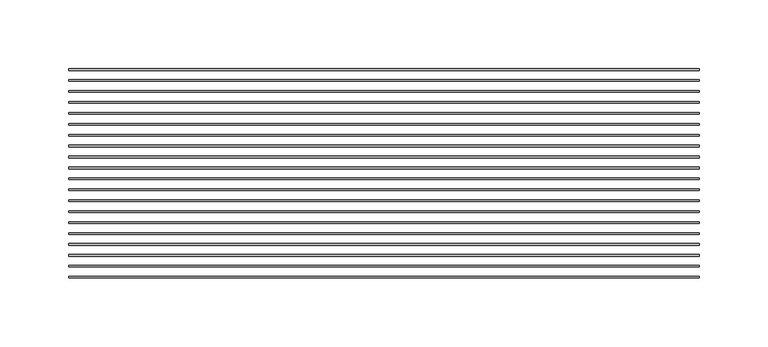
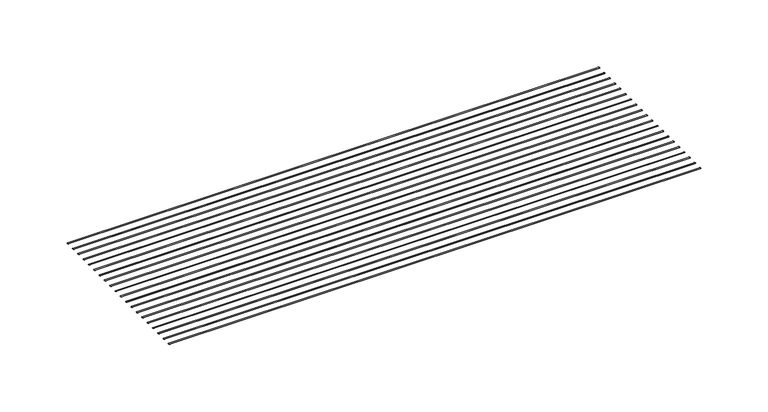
"""IFC4 building model written with IfcOpenShell, lengths in millimetres: proxy geometry, CRAi Generic Model Mesh Piece Face Based : Wider Mesh."""

from ifc_helpers import new_model, si_unit, point, frame, origin, place, context, project, spatial, ellipse_curve, trimmed, source, transform, mapped, element, save
from ifc_brep_helpers import plane_surface, extruded_surface, advanced_brep


def generic_models_e2e28054(model_context):
    return source(origin(), model_context, "Body", "AdvancedBrep", [
        advanced_brep(
        [(-228.6, -14.4859375, -2.9765625), (-228.6, -15.6765625, -2.9765625), (228.6, -14.4859375, -2.9765625), (228.6, -15.6765625, -2.9765625)],
        [
            (0, 1, ellipse_curve(frame((-228.6, -15.08125, -2.9765625), z_axis=(-1.0, 0.0, 0.0), x_axis=(0.0, -1.0, 0.0)), 0.5953125, 0.1984375)),
            (1, 0, ellipse_curve(frame((-228.6, -15.08125, -2.9765625), z_axis=(-1.0, 0.0, 0.0), x_axis=(0.0, -1.0, 0.0)), 0.5953125, 0.1984375)),
            (2, 3, ellipse_curve(frame((228.6, -15.08125, -2.9765625), z_axis=(1.0, 0.0, 0.0), x_axis=(0.0, -1.0, 0.0)), 0.5953125, 0.1984375)),
            (3, 2, ellipse_curve(frame((228.6, -15.08125, -2.9765625), z_axis=(1.0, 0.0, 0.0), x_axis=(0.0, -1.0, 0.0)), 0.5953125, 0.1984375)),
            (0, 2),
            (3, 1),
        ],
        [
            plane_surface(frame((-228.6, -15.08125, -2.9765625), z_axis=(-1.0, 0.0, 0.0), x_axis=(0.0, 0.0, 1.0))),
            plane_surface(frame((228.6, -15.08125, -2.9765625), z_axis=(1.0, 0.0, 0.0), x_axis=(0.0, 0.0, 1.0))),
            extruded_surface(trimmed(ellipse_curve(frame((228.6, -15.08125, -2.9765625), z_axis=(-1.0, 0.0, 0.0), x_axis=(0.0, -1.0, 0.0)), 0.5953125, 0.1984375), [point((228.6, -14.4859375, -2.9765625))], [point((228.6, -15.6765625, -2.9765625))], True, "CARTESIAN"), (-457.2, 0.0, 0.0), 457.2),
            extruded_surface(trimmed(ellipse_curve(frame((228.6, -15.08125, -2.9765625), z_axis=(-1.0, 0.0, 0.0), x_axis=(0.0, -1.0, 0.0)), 0.5953125, 0.1984375), [point((228.6, -15.6765625, -2.9765625))], [point((228.6, -14.4859375, -2.9765625))], True, "CARTESIAN"), (-457.2, 0.0, 0.0), 457.2),
        ],
        [
            (0, [[1, 2]]),
            (1, [[3, 4]]),
            (2, [[-1, 5, -4, 6]]),
            (3, [[-2, -6, -3, -5]]),
        ],
    ),
        advanced_brep(
        [(-228.6, -22.4234375, -2.9765625), (-228.6, -23.6140625, -2.9765625), (228.6, -22.4234375, -2.9765625), (228.6, -23.6140625, -2.9765625)],
        [
            (0, 1, ellipse_curve(frame((-228.6, -23.01875, -2.9765625), z_axis=(-1.0, 0.0, 0.0), x_axis=(0.0, -1.0, 0.0)), 0.5953125, 0.1984375)),
            (1, 0, ellipse_curve(frame((-228.6, -23.01875, -2.9765625), z_axis=(-1.0, 0.0, 0.0), x_axis=(0.0, -1.0, 0.0)), 0.5953125, 0.1984375)),
            (2, 3, ellipse_curve(frame((228.6, -23.01875, -2.9765625), z_axis=(1.0, 0.0, 0.0), x_axis=(0.0, -1.0, 0.0)), 0.5953125, 0.1984375)),
            (3, 2, ellipse_curve(frame((228.6, -23.01875, -2.9765625), z_axis=(1.0, 0.0, 0.0), x_axis=(0.0, -1.0, 0.0)), 0.5953125, 0.1984375)),
            (0, 2),
            (3, 1),
        ],
        [
            plane_surface(frame((-228.6, -23.01875, -2.9765625), z_axis=(-1.0, 0.0, 0.0), x_axis=(0.0, 0.0, 1.0))),
            plane_surface(frame((228.6, -23.01875, -2.9765625), z_axis=(1.0, 0.0, 0.0), x_axis=(0.0, 0.0, 1.0))),
            extruded_surface(trimmed(ellipse_curve(frame((228.6, -23.01875, -2.9765625), z_axis=(-1.0, 0.0, 0.0), x_axis=(0.0, -1.0, 0.0)), 0.5953125, 0.1984375), [point((228.6, -22.4234375, -2.9765625))], [point((228.6, -23.6140625, -2.9765625))], True, "CARTESIAN"), (-457.2, 0.0, 0.0), 457.2),
            extruded_surface(trimmed(ellipse_curve(frame((228.6, -23.01875, -2.9765625), z_axis=(-1.0, 0.0, 0.0), x_axis=(0.0, -1.0, 0.0)), 0.5953125, 0.1984375), [point((228.6, -23.6140625, -2.9765625))], [point((228.6, -22.4234375, -2.9765625))], True, "CARTESIAN"), (-457.2, 0.0, 0.0), 457.2),
        ],
        [
            (0, [[1, 2]]),
            (1, [[3, 4]]),
            (2, [[-1, 5, -4, 6]]),
            (3, [[-2, -6, -3, -5]]),
        ],
    ),
        advanced_brep(
        [(-228.6, -30.3609375, -2.9765625), (-228.6, -31.5515625, -2.9765625), (228.6, -30.3609375, -2.9765625), (228.6, -31.5515625, -2.9765625)],
        [
            (0, 1, ellipse_curve(frame((-228.6, -30.95625, -2.9765625), z_axis=(-1.0, 0.0, 0.0), x_axis=(0.0, -1.0, 0.0)), 0.5953125, 0.1984375)),
            (1, 0, ellipse_curve(frame((-228.6, -30.95625, -2.9765625), z_axis=(-1.0, 0.0, 0.0), x_axis=(0.0, -1.0, 0.0)), 0.5953125, 0.1984375)),
            (2, 3, ellipse_curve(frame((228.6, -30.95625, -2.9765625), z_axis=(1.0, 0.0, 0.0), x_axis=(0.0, -1.0, 0.0)), 0.5953125, 0.1984375)),
            (3, 2, ellipse_curve(frame((228.6, -30.95625, -2.9765625), z_axis=(1.0, 0.0, 0.0), x_axis=(0.0, -1.0, 0.0)), 0.5953125, 0.1984375)),
            (0, 2),
            (3, 1),
        ],
        [
            plane_surface(frame((-228.6, -30.95625, -2.9765625), z_axis=(-1.0, 0.0, 0.0), x_axis=(0.0, 0.0, 1.0))),
            plane_surface(frame((228.6, -30.95625, -2.9765625), z_axis=(1.0, 0.0, 0.0), x_axis=(0.0, 0.0, 1.0))),
            extruded_surface(trimmed(ellipse_curve(frame((228.6, -30.95625, -2.9765625), z_axis=(-1.0, 0.0, 0.0), x_axis=(0.0, -1.0, 0.0)), 0.5953125, 0.1984375), [point((228.6, -30.3609375, -2.9765625))], [point((228.6, -31.5515625, -2.9765625))], True, "CARTESIAN"), (-457.2, 0.0, 0.0), 457.2),
            extruded_surface(trimmed(ellipse_curve(frame((228.6, -30.95625, -2.9765625), z_axis=(-1.0, 0.0, 0.0), x_axis=(0.0, -1.0, 0.0)), 0.5953125, 0.1984375), [point((228.6, -31.5515625, -2.9765625))], [point((228.6, -30.3609375, -2.9765625))], True, "CARTESIAN"), (-457.2, 0.0, 0.0), 457.2),
        ],
        [
            (0, [[1, 2]]),
            (1, [[3, 4]]),
            (2, [[-1, 5, -4, 6]]),
            (3, [[-2, -6, -3, -5]]),
        ],
    ),
        advanced_brep(
        [(-228.6, -38.2984375, -2.9765625), (-228.6, -39.4890625, -2.9765625), (228.6, -38.2984375, -2.9765625), (228.6, -39.4890625, -2.9765625)],
        [
            (0, 1, ellipse_curve(frame((-228.6, -38.89375, -2.9765625), z_axis=(-1.0, 0.0, 0.0), x_axis=(0.0, -1.0, 0.0)), 0.5953125, 0.1984375)),
            (1, 0, ellipse_curve(frame((-228.6, -38.89375, -2.9765625), z_axis=(-1.0, 0.0, 0.0), x_axis=(0.0, -1.0, 0.0)), 0.5953125, 0.1984375)),
            (2, 3, ellipse_curve(frame((228.6, -38.89375, -2.9765625), z_axis=(1.0, 0.0, 0.0), x_axis=(0.0, -1.0, 0.0)), 0.5953125, 0.1984375)),
            (3, 2, ellipse_curve(frame((228.6, -38.89375, -2.9765625), z_axis=(1.0, 0.0, 0.0), x_axis=(0.0, -1.0, 0.0)), 0.5953125, 0.1984375)),
            (0, 2),
            (3, 1),
        ],
        [
            plane_surface(frame((-228.6, -38.89375, -2.9765625), z_axis=(-1.0, 0.0, 0.0), x_axis=(0.0, 0.0, 1.0))),
            plane_surface(frame((228.6, -38.89375, -2.9765625), z_axis=(1.0, 0.0, 0.0), x_axis=(0.0, 0.0, 1.0))),
            extruded_surface(trimmed(ellipse_curve(frame((228.6, -38.89375, -2.9765625), z_axis=(-1.0, 0.0, 0.0), x_axis=(0.0, -1.0, 0.0)), 0.5953125, 0.1984375), [point((228.6, -38.2984375, -2.9765625))], [point((228.6, -39.4890625, -2.9765625))], True, "CARTESIAN"), (-457.2, 0.0, 0.0), 457.2),
            extruded_surface(trimmed(ellipse_curve(frame((228.6, -38.89375, -2.9765625), z_axis=(-1.0, 0.0, 0.0), x_axis=(0.0, -1.0, 0.0)), 0.5953125, 0.1984375), [point((228.6, -39.4890625, -2.9765625))], [point((228.6, -38.2984375, -2.9765625))], True, "CARTESIAN"), (-457.2, 0.0, 0.0), 457.2),
        ],
        [
            (0, [[1, 2]]),
            (1, [[3, 4]]),
            (2, [[-1, 5, -4, 6]]),
            (3, [[-2, -6, -3, -5]]),
        ],
    ),
        advanced_brep(
        [(-228.6, -46.2359375, -2.9765625), (-228.6, -47.4265625, -2.9765625), (228.6, -46.2359375, -2.9765625), (228.6, -47.4265625, -2.9765625)],
        [
            (0, 1, ellipse_curve(frame((-228.6, -46.83125, -2.9765625), z_axis=(-1.0, 0.0, 0.0), x_axis=(0.0, -1.0, 0.0)), 0.5953125, 0.1984375)),
            (1, 0, ellipse_curve(frame((-228.6, -46.83125, -2.9765625), z_axis=(-1.0, 0.0, 0.0), x_axis=(0.0, -1.0, 0.0)), 0.5953125, 0.1984375)),
            (2, 3, ellipse_curve(frame((228.6, -46.83125, -2.9765625), z_axis=(1.0, 0.0, 0.0), x_axis=(0.0, -1.0, 0.0)), 0.5953125, 0.1984375)),
            (3, 2, ellipse_curve(frame((228.6, -46.83125, -2.9765625), z_axis=(1.0, 0.0, 0.0), x_axis=(0.0, -1.0, 0.0)), 0.5953125, 0.1984375)),
            (0, 2),
            (3, 1),
        ],
        [
            plane_surface(frame((-228.6, -46.83125, -2.9765625), z_axis=(-1.0, 0.0, 0.0), x_axis=(0.0, 0.0, 1.0))),
            plane_surface(frame((228.6, -46.83125, -2.9765625), z_axis=(1.0, 0.0, 0.0), x_axis=(0.0, 0.0, 1.0))),
            extruded_surface(trimmed(ellipse_curve(frame((228.6, -46.83125, -2.9765625), z_axis=(-1.0, 0.0, 0.0), x_axis=(0.0, -1.0, 0.0)), 0.5953125, 0.1984375), [point((228.6, -46.2359375, -2.9765625))], [point((228.6, -47.4265625, -2.9765625))], True, "CARTESIAN"), (-457.2, 0.0, 0.0), 457.2),
            extruded_surface(trimmed(ellipse_curve(frame((228.6, -46.83125, -2.9765625), z_axis=(-1.0, 0.0, 0.0), x_axis=(0.0, -1.0, 0.0)), 0.5953125, 0.1984375), [point((228.6, -47.4265625, -2.9765625))], [point((228.6, -46.2359375, -2.9765625))], True, "CARTESIAN"), (-457.2, 0.0, 0.0), 457.2),
        ],
        [
            (0, [[1, 2]]),
            (1, [[3, 4]]),
            (2, [[-1, 5, -4, 6]]),
            (3, [[-2, -6, -3, -5]]),
        ],
    ),
        advanced_brep(
        [(-228.6, -54.1734375, -2.9765625), (-228.6, -55.3640625, -2.9765625), (228.6, -54.1734375, -2.9765625), (228.6, -55.3640625, -2.9765625)],
        [
            (0, 1, ellipse_curve(frame((-228.6, -54.76875, -2.9765625), z_axis=(-1.0, 0.0, 0.0), x_axis=(0.0, -1.0, 0.0)), 0.5953125, 0.1984375)),
            (1, 0, ellipse_curve(frame((-228.6, -54.76875, -2.9765625), z_axis=(-1.0, 0.0, 0.0), x_axis=(0.0, -1.0, 0.0)), 0.5953125, 0.1984375)),
            (2, 3, ellipse_curve(frame((228.6, -54.76875, -2.9765625), z_axis=(1.0, 0.0, 0.0), x_axis=(0.0, -1.0, 0.0)), 0.5953125, 0.1984375)),
            (3, 2, ellipse_curve(frame((228.6, -54.76875, -2.9765625), z_axis=(1.0, 0.0, 0.0), x_axis=(0.0, -1.0, 0.0)), 0.5953125, 0.1984375)),
            (0, 2),
            (3, 1),
        ],
        [
            plane_surface(frame((-228.6, -54.76875, -2.9765625), z_axis=(-1.0, 0.0, 0.0), x_axis=(0.0, 0.0, 1.0))),
            plane_surface(frame((228.6, -54.76875, -2.9765625), z_axis=(1.0, 0.0, 0.0), x_axis=(0.0, 0.0, 1.0))),
            extruded_surface(trimmed(ellipse_curve(frame((228.6, -54.76875, -2.9765625), z_axis=(-1.0, 0.0, 0.0), x_axis=(0.0, -1.0, 0.0)), 0.5953125, 0.1984375), [point((228.6, -54.1734375, -2.9765625))], [point((228.6, -55.3640625, -2.9765625))], True, "CARTESIAN"), (-457.2, 0.0, 0.0), 457.2),
            extruded_surface(trimmed(ellipse_curve(frame((228.6, -54.76875, -2.9765625), z_axis=(-1.0, 0.0, 0.0), x_axis=(0.0, -1.0, 0.0)), 0.5953125, 0.1984375), [point((228.6, -55.3640625, -2.9765625))], [point((228.6, -54.1734375, -2.9765625))], True, "CARTESIAN"), (-457.2, 0.0, 0.0), 457.2),
        ],
        [
            (0, [[1, 2]]),
            (1, [[3, 4]]),
            (2, [[-1, 5, -4, 6]]),
            (3, [[-2, -6, -3, -5]]),
        ],
    ),
        advanced_brep(
        [(-228.6, -62.1109375, -2.9765625), (-228.6, -63.3015625, -2.9765625), (228.6, -62.1109375, -2.9765625), (228.6, -63.3015625, -2.9765625)],
        [
            (0, 1, ellipse_curve(frame((-228.6, -62.70625, -2.9765625), z_axis=(-1.0, 0.0, 0.0), x_axis=(0.0, -1.0, 0.0)), 0.5953125, 0.1984375)),
            (1, 0, ellipse_curve(frame((-228.6, -62.70625, -2.9765625), z_axis=(-1.0, 0.0, 0.0), x_axis=(0.0, -1.0, 0.0)), 0.5953125, 0.1984375)),
            (2, 3, ellipse_curve(frame((228.6, -62.70625, -2.9765625), z_axis=(1.0, 0.0, 0.0), x_axis=(0.0, -1.0, 0.0)), 0.5953125, 0.1984375)),
            (3, 2, ellipse_curve(frame((228.6, -62.70625, -2.9765625), z_axis=(1.0, 0.0, 0.0), x_axis=(0.0, -1.0, 0.0)), 0.5953125, 0.1984375)),
            (0, 2),
            (3, 1),
        ],
        [
            plane_surface(frame((-228.6, -62.70625, -2.9765625), z_axis=(-1.0, 0.0, 0.0), x_axis=(0.0, 0.0, 1.0))),
            plane_surface(frame((228.6, -62.70625, -2.9765625), z_axis=(1.0, 0.0, 0.0), x_axis=(0.0, 0.0, 1.0))),
            extruded_surface(trimmed(ellipse_curve(frame((228.6, -62.70625, -2.9765625), z_axis=(-1.0, 0.0, 0.0), x_axis=(0.0, -1.0, 0.0)), 0.5953125, 0.1984375), [point((228.6, -62.1109375, -2.9765625))], [point((228.6, -63.3015625, -2.9765625))], True, "CARTESIAN"), (-457.2, 0.0, 0.0), 457.2),
            extruded_surface(trimmed(ellipse_curve(frame((228.6, -62.70625, -2.9765625), z_axis=(-1.0, 0.0, 0.0), x_axis=(0.0, -1.0, 0.0)), 0.5953125, 0.1984375), [point((228.6, -63.3015625, -2.9765625))], [point((228.6, -62.1109375, -2.9765625))], True, "CARTESIAN"), (-457.2, 0.0, 0.0), 457.2),
        ],
        [
            (0, [[1, 2]]),
            (1, [[3, 4]]),
            (2, [[-1, 5, -4, 6]]),
            (3, [[-2, -6, -3, -5]]),
        ],
    ),
        advanced_brep(
        [(-228.6, -70.0484375, -2.9765625), (-228.6, -71.2390625, -2.9765625), (228.6, -70.0484375, -2.9765625), (228.6, -71.2390625, -2.9765625)],
        [
            (0, 1, ellipse_curve(frame((-228.6, -70.64375, -2.9765625), z_axis=(-1.0, 0.0, 0.0), x_axis=(0.0, -1.0, 0.0)), 0.5953125, 0.1984375)),
            (1, 0, ellipse_curve(frame((-228.6, -70.64375, -2.9765625), z_axis=(-1.0, 0.0, 0.0), x_axis=(0.0, -1.0, 0.0)), 0.5953125, 0.1984375)),
            (2, 3, ellipse_curve(frame((228.6, -70.64375, -2.9765625), z_axis=(1.0, 0.0, 0.0), x_axis=(0.0, -1.0, 0.0)), 0.5953125, 0.1984375)),
            (3, 2, ellipse_curve(frame((228.6, -70.64375, -2.9765625), z_axis=(1.0, 0.0, 0.0), x_axis=(0.0, -1.0, 0.0)), 0.5953125, 0.1984375)),
            (0, 2),
            (3, 1),
        ],
        [
            plane_surface(frame((-228.6, -70.64375, -2.9765625), z_axis=(-1.0, 0.0, 0.0), x_axis=(0.0, 0.0, 1.0))),
            plane_surface(frame((228.6, -70.64375, -2.9765625), z_axis=(1.0, 0.0, 0.0), x_axis=(0.0, 0.0, 1.0))),
            extruded_surface(trimmed(ellipse_curve(frame((228.6, -70.64375, -2.9765625), z_axis=(-1.0, 0.0, 0.0), x_axis=(0.0, -1.0, 0.0)), 0.5953125, 0.1984375), [point((228.6, -70.0484375, -2.9765625))], [point((228.6, -71.2390625, -2.9765625))], True, "CARTESIAN"), (-457.2, 0.0, 0.0), 457.2),
            extruded_surface(trimmed(ellipse_curve(frame((228.6, -70.64375, -2.9765625), z_axis=(-1.0, 0.0, 0.0), x_axis=(0.0, -1.0, 0.0)), 0.5953125, 0.1984375), [point((228.6, -71.2390625, -2.9765625))], [point((228.6, -70.0484375, -2.9765625))], True, "CARTESIAN"), (-457.2, 0.0, 0.0), 457.2),
        ],
        [
            (0, [[1, 2]]),
            (1, [[3, 4]]),
            (2, [[-1, 5, -4, 6]]),
            (3, [[-2, -6, -3, -5]]),
        ],
    ),
        advanced_brep(
        [(-228.6, -77.9859375, -2.9765625), (-228.6, -79.1765625, -2.9765625), (228.6, -77.9859375, -2.9765625), (228.6, -79.1765625, -2.9765625)],
        [
            (0, 1, ellipse_curve(frame((-228.6, -78.58125, -2.9765625), z_axis=(-1.0, 0.0, 0.0), x_axis=(0.0, -1.0, 0.0)), 0.5953125, 0.1984375)),
            (1, 0, ellipse_curve(frame((-228.6, -78.58125, -2.9765625), z_axis=(-1.0, 0.0, 0.0), x_axis=(0.0, -1.0, 0.0)), 0.5953125, 0.1984375)),
            (2, 3, ellipse_curve(frame((228.6, -78.58125, -2.9765625), z_axis=(1.0, 0.0, 0.0), x_axis=(0.0, -1.0, 0.0)), 0.5953125, 0.1984375)),
            (3, 2, ellipse_curve(frame((228.6, -78.58125, -2.9765625), z_axis=(1.0, 0.0, 0.0), x_axis=(0.0, -1.0, 0.0)), 0.5953125, 0.1984375)),
            (0, 2),
            (3, 1),
        ],
        [
            plane_surface(frame((-228.6, -78.58125, -2.9765625), z_axis=(-1.0, 0.0, 0.0), x_axis=(0.0, 0.0, 1.0))),
            plane_surface(frame((228.6, -78.58125, -2.9765625), z_axis=(1.0, 0.0, 0.0), x_axis=(0.0, 0.0, 1.0))),
            extruded_surface(trimmed(ellipse_curve(frame((228.6, -78.58125, -2.9765625), z_axis=(-1.0, 0.0, 0.0), x_axis=(0.0, -1.0, 0.0)), 0.5953125, 0.1984375), [point((228.6, -77.9859375, -2.9765625))], [point((228.6, -79.1765625, -2.9765625))], True, "CARTESIAN"), (-457.2, 0.0, 0.0), 457.2),
            extruded_surface(trimmed(ellipse_curve(frame((228.6, -78.58125, -2.9765625), z_axis=(-1.0, 0.0, 0.0), x_axis=(0.0, -1.0, 0.0)), 0.5953125, 0.1984375), [point((228.6, -79.1765625, -2.9765625))], [point((228.6, -77.9859375, -2.9765625))], True, "CARTESIAN"), (-457.2, 0.0, 0.0), 457.2),
        ],
        [
            (0, [[1, 2]]),
            (1, [[3, 4]]),
            (2, [[-1, 5, -4, 6]]),
            (3, [[-2, -6, -3, -5]]),
        ],
    ),
        advanced_brep(
        [(-228.6, -85.9234375, -2.9765625), (-228.6, -87.1140625, -2.9765625), (228.6, -85.9234375, -2.9765625), (228.6, -87.1140625, -2.9765625)],
        [
            (0, 1, ellipse_curve(frame((-228.6, -86.51875, -2.9765625), z_axis=(-1.0, 0.0, 0.0), x_axis=(0.0, -1.0, 0.0)), 0.5953125, 0.1984375)),
            (1, 0, ellipse_curve(frame((-228.6, -86.51875, -2.9765625), z_axis=(-1.0, 0.0, 0.0), x_axis=(0.0, -1.0, 0.0)), 0.5953125, 0.1984375)),
            (2, 3, ellipse_curve(frame((228.6, -86.51875, -2.9765625), z_axis=(1.0, 0.0, 0.0), x_axis=(0.0, -1.0, 0.0)), 0.5953125, 0.1984375)),
            (3, 2, ellipse_curve(frame((228.6, -86.51875, -2.9765625), z_axis=(1.0, 0.0, 0.0), x_axis=(0.0, -1.0, 0.0)), 0.5953125, 0.1984375)),
            (0, 2),
            (3, 1),
        ],
        [
            plane_surface(frame((-228.6, -86.51875, -2.9765625), z_axis=(-1.0, 0.0, 0.0), x_axis=(0.0, 0.0, 1.0))),
            plane_surface(frame((228.6, -86.51875, -2.9765625), z_axis=(1.0, 0.0, 0.0), x_axis=(0.0, 0.0, 1.0))),
            extruded_surface(trimmed(ellipse_curve(frame((228.6, -86.51875, -2.9765625), z_axis=(-1.0, 0.0, 0.0), x_axis=(0.0, -1.0, 0.0)), 0.5953125, 0.1984375), [point((228.6, -85.9234375, -2.9765625))], [point((228.6, -87.1140625, -2.9765625))], True, "CARTESIAN"), (-457.2, 0.0, 0.0), 457.2),
            extruded_surface(trimmed(ellipse_curve(frame((228.6, -86.51875, -2.9765625), z_axis=(-1.0, 0.0, 0.0), x_axis=(0.0, -1.0, 0.0)), 0.5953125, 0.1984375), [point((228.6, -87.1140625, -2.9765625))], [point((228.6, -85.9234375, -2.9765625))], True, "CARTESIAN"), (-457.2, 0.0, 0.0), 457.2),
        ],
        [
            (0, [[1, 2]]),
            (1, [[3, 4]]),
            (2, [[-1, 5, -4, 6]]),
            (3, [[-2, -6, -3, -5]]),
        ],
    ),
        advanced_brep(
        [(-228.6, -93.8609375, -2.9765625), (-228.6, -95.0515625, -2.9765625), (228.6, -93.8609375, -2.9765625), (228.6, -95.0515625, -2.9765625)],
        [
            (0, 1, ellipse_curve(frame((-228.6, -94.45625, -2.9765625), z_axis=(-1.0, 0.0, 0.0), x_axis=(0.0, -1.0, 0.0)), 0.5953125, 0.1984375)),
            (1, 0, ellipse_curve(frame((-228.6, -94.45625, -2.9765625), z_axis=(-1.0, 0.0, 0.0), x_axis=(0.0, -1.0, 0.0)), 0.5953125, 0.1984375)),
            (2, 3, ellipse_curve(frame((228.6, -94.45625, -2.9765625), z_axis=(1.0, 0.0, 0.0), x_axis=(0.0, -1.0, 0.0)), 0.5953125, 0.1984375)),
            (3, 2, ellipse_curve(frame((228.6, -94.45625, -2.9765625), z_axis=(1.0, 0.0, 0.0), x_axis=(0.0, -1.0, 0.0)), 0.5953125, 0.1984375)),
            (0, 2),
            (3, 1),
        ],
        [
            plane_surface(frame((-228.6, -94.45625, -2.9765625), z_axis=(-1.0, 0.0, 0.0), x_axis=(0.0, 0.0, 1.0))),
            plane_surface(frame((228.6, -94.45625, -2.9765625), z_axis=(1.0, 0.0, 0.0), x_axis=(0.0, 0.0, 1.0))),
            extruded_surface(trimmed(ellipse_curve(frame((228.6, -94.45625, -2.9765625), z_axis=(-1.0, 0.0, 0.0), x_axis=(0.0, -1.0, 0.0)), 0.5953125, 0.1984375), [point((228.6, -93.8609375, -2.9765625))], [point((228.6, -95.0515625, -2.9765625))], True, "CARTESIAN"), (-457.2, 0.0, 0.0), 457.2),
            extruded_surface(trimmed(ellipse_curve(frame((228.6, -94.45625, -2.9765625), z_axis=(-1.0, 0.0, 0.0), x_axis=(0.0, -1.0, 0.0)), 0.5953125, 0.1984375), [point((228.6, -95.0515625, -2.9765625))], [point((228.6, -93.8609375, -2.9765625))], True, "CARTESIAN"), (-457.2, 0.0, 0.0), 457.2),
        ],
        [
            (0, [[1, 2]]),
            (1, [[3, 4]]),
            (2, [[-1, 5, -4, 6]]),
            (3, [[-2, -6, -3, -5]]),
        ],
    ),
        advanced_brep(
        [(-228.6, -101.7984375, -2.9765625), (-228.6, -102.9890625, -2.9765625), (228.6, -101.7984375, -2.9765625), (228.6, -102.9890625, -2.9765625)],
        [
            (0, 1, ellipse_curve(frame((-228.6, -102.39375, -2.9765625), z_axis=(-1.0, 0.0, 0.0), x_axis=(0.0, -1.0, 0.0)), 0.5953125, 0.1984375)),
            (1, 0, ellipse_curve(frame((-228.6, -102.39375, -2.9765625), z_axis=(-1.0, 0.0, 0.0), x_axis=(0.0, -1.0, 0.0)), 0.5953125, 0.1984375)),
            (2, 3, ellipse_curve(frame((228.6, -102.39375, -2.9765625), z_axis=(1.0, 0.0, 0.0), x_axis=(0.0, -1.0, 0.0)), 0.5953125, 0.1984375)),
            (3, 2, ellipse_curve(frame((228.6, -102.39375, -2.9765625), z_axis=(1.0, 0.0, 0.0), x_axis=(0.0, -1.0, 0.0)), 0.5953125, 0.1984375)),
            (0, 2),
            (3, 1),
        ],
        [
            plane_surface(frame((-228.6, -102.39375, -2.9765625), z_axis=(-1.0, 0.0, 0.0), x_axis=(0.0, 0.0, 1.0))),
            plane_surface(frame((228.6, -102.39375, -2.9765625), z_axis=(1.0, 0.0, 0.0), x_axis=(0.0, 0.0, 1.0))),
            extruded_surface(trimmed(ellipse_curve(frame((228.6, -102.39375, -2.9765625), z_axis=(-1.0, 0.0, 0.0), x_axis=(0.0, -1.0, 0.0)), 0.5953125, 0.1984375), [point((228.6, -101.7984375, -2.9765625))], [point((228.6, -102.9890625, -2.9765625))], True, "CARTESIAN"), (-457.2, 0.0, 0.0), 457.2),
            extruded_surface(trimmed(ellipse_curve(frame((228.6, -102.39375, -2.9765625), z_axis=(-1.0, 0.0, 0.0), x_axis=(0.0, -1.0, 0.0)), 0.5953125, 0.1984375), [point((228.6, -102.9890625, -2.9765625))], [point((228.6, -101.7984375, -2.9765625))], True, "CARTESIAN"), (-457.2, 0.0, 0.0), 457.2),
        ],
        [
            (0, [[1, 2]]),
            (1, [[3, 4]]),
            (2, [[-1, 5, -4, 6]]),
            (3, [[-2, -6, -3, -5]]),
        ],
    ),
        advanced_brep(
        [(-228.6, -109.7359375, -2.9765625), (-228.6, -110.9265625, -2.9765625), (228.6, -109.7359375, -2.9765625), (228.6, -110.9265625, -2.9765625)],
        [
            (0, 1, ellipse_curve(frame((-228.6, -110.33125, -2.9765625), z_axis=(-1.0, 0.0, 0.0), x_axis=(0.0, -1.0, 0.0)), 0.5953125, 0.1984375)),
            (1, 0, ellipse_curve(frame((-228.6, -110.33125, -2.9765625), z_axis=(-1.0, 0.0, 0.0), x_axis=(0.0, -1.0, 0.0)), 0.5953125, 0.1984375)),
            (2, 3, ellipse_curve(frame((228.6, -110.33125, -2.9765625), z_axis=(1.0, 0.0, 0.0), x_axis=(0.0, -1.0, 0.0)), 0.5953125, 0.1984375)),
            (3, 2, ellipse_curve(frame((228.6, -110.33125, -2.9765625), z_axis=(1.0, 0.0, 0.0), x_axis=(0.0, -1.0, 0.0)), 0.5953125, 0.1984375)),
            (0, 2),
            (3, 1),
        ],
        [
            plane_surface(frame((-228.6, -110.33125, -2.9765625), z_axis=(-1.0, 0.0, 0.0), x_axis=(0.0, 0.0, 1.0))),
            plane_surface(frame((228.6, -110.33125, -2.9765625), z_axis=(1.0, 0.0, 0.0), x_axis=(0.0, 0.0, 1.0))),
            extruded_surface(trimmed(ellipse_curve(frame((228.6, -110.33125, -2.9765625), z_axis=(-1.0, 0.0, 0.0), x_axis=(0.0, -1.0, 0.0)), 0.5953125, 0.1984375), [point((228.6, -109.7359375, -2.9765625))], [point((228.6, -110.9265625, -2.9765625))], True, "CARTESIAN"), (-457.2, 0.0, 0.0), 457.2),
            extruded_surface(trimmed(ellipse_curve(frame((228.6, -110.33125, -2.9765625), z_axis=(-1.0, 0.0, 0.0), x_axis=(0.0, -1.0, 0.0)), 0.5953125, 0.1984375), [point((228.6, -110.9265625, -2.9765625))], [point((228.6, -109.7359375, -2.9765625))], True, "CARTESIAN"), (-457.2, 0.0, 0.0), 457.2),
        ],
        [
            (0, [[1, 2]]),
            (1, [[3, 4]]),
            (2, [[-1, 5, -4, 6]]),
            (3, [[-2, -6, -3, -5]]),
        ],
    ),
        advanced_brep(
        [(-228.6, -117.6734375, -2.9765625), (-228.6, -118.8640625, -2.9765625), (228.6, -117.6734375, -2.9765625), (228.6, -118.8640625, -2.9765625)],
        [
            (0, 1, ellipse_curve(frame((-228.6, -118.26875, -2.9765625), z_axis=(-1.0, 0.0, 0.0), x_axis=(0.0, -1.0, 0.0)), 0.5953125, 0.1984375)),
            (1, 0, ellipse_curve(frame((-228.6, -118.26875, -2.9765625), z_axis=(-1.0, 0.0, 0.0), x_axis=(0.0, -1.0, 0.0)), 0.5953125, 0.1984375)),
            (2, 3, ellipse_curve(frame((228.6, -118.26875, -2.9765625), z_axis=(1.0, 0.0, 0.0), x_axis=(0.0, -1.0, 0.0)), 0.5953125, 0.1984375)),
            (3, 2, ellipse_curve(frame((228.6, -118.26875, -2.9765625), z_axis=(1.0, 0.0, 0.0), x_axis=(0.0, -1.0, 0.0)), 0.5953125, 0.1984375)),
            (0, 2),
            (3, 1),
        ],
        [
            plane_surface(frame((-228.6, -118.26875, -2.9765625), z_axis=(-1.0, 0.0, 0.0), x_axis=(0.0, 0.0, 1.0))),
            plane_surface(frame((228.6, -118.26875, -2.9765625), z_axis=(1.0, 0.0, 0.0), x_axis=(0.0, 0.0, 1.0))),
            extruded_surface(trimmed(ellipse_curve(frame((228.6, -118.26875, -2.9765625), z_axis=(-1.0, 0.0, 0.0), x_axis=(0.0, -1.0, 0.0)), 0.5953125, 0.1984375), [point((228.6, -117.6734375, -2.9765625))], [point((228.6, -118.8640625, -2.9765625))], True, "CARTESIAN"), (-457.2, 0.0, 0.0), 457.2),
            extruded_surface(trimmed(ellipse_curve(frame((228.6, -118.26875, -2.9765625), z_axis=(-1.0, 0.0, 0.0), x_axis=(0.0, -1.0, 0.0)), 0.5953125, 0.1984375), [point((228.6, -118.8640625, -2.9765625))], [point((228.6, -117.6734375, -2.9765625))], True, "CARTESIAN"), (-457.2, 0.0, 0.0), 457.2),
        ],
        [
            (0, [[1, 2]]),
            (1, [[3, 4]]),
            (2, [[-1, 5, -4, 6]]),
            (3, [[-2, -6, -3, -5]]),
        ],
    ),
        advanced_brep(
        [(-228.6, -125.6109375, -2.9765625), (-228.6, -126.8015625, -2.9765625), (228.6, -125.6109375, -2.9765625), (228.6, -126.8015625, -2.9765625)],
        [
            (0, 1, ellipse_curve(frame((-228.6, -126.20625, -2.9765625), z_axis=(-1.0, 0.0, 0.0), x_axis=(0.0, -1.0, 0.0)), 0.5953125, 0.1984375)),
            (1, 0, ellipse_curve(frame((-228.6, -126.20625, -2.9765625), z_axis=(-1.0, 0.0, 0.0), x_axis=(0.0, -1.0, 0.0)), 0.5953125, 0.1984375)),
            (2, 3, ellipse_curve(frame((228.6, -126.20625, -2.9765625), z_axis=(1.0, 0.0, 0.0), x_axis=(0.0, -1.0, 0.0)), 0.5953125, 0.1984375)),
            (3, 2, ellipse_curve(frame((228.6, -126.20625, -2.9765625), z_axis=(1.0, 0.0, 0.0), x_axis=(0.0, -1.0, 0.0)), 0.5953125, 0.1984375)),
            (0, 2),
            (3, 1),
        ],
        [
            plane_surface(frame((-228.6, -126.20625, -2.9765625), z_axis=(-1.0, 0.0, 0.0), x_axis=(0.0, 0.0, 1.0))),
            plane_surface(frame((228.6, -126.20625, -2.9765625), z_axis=(1.0, 0.0, 0.0), x_axis=(0.0, 0.0, 1.0))),
            extruded_surface(trimmed(ellipse_curve(frame((228.6, -126.20625, -2.9765625), z_axis=(-1.0, 0.0, 0.0), x_axis=(0.0, -1.0, 0.0)), 0.5953125, 0.1984375), [point((228.6, -125.6109375, -2.9765625))], [point((228.6, -126.8015625, -2.9765625))], True, "CARTESIAN"), (-457.2, 0.0, 0.0), 457.2),
            extruded_surface(trimmed(ellipse_curve(frame((228.6, -126.20625, -2.9765625), z_axis=(-1.0, 0.0, 0.0), x_axis=(0.0, -1.0, 0.0)), 0.5953125, 0.1984375), [point((228.6, -126.8015625, -2.9765625))], [point((228.6, -125.6109375, -2.9765625))], True, "CARTESIAN"), (-457.2, 0.0, 0.0), 457.2),
        ],
        [
            (0, [[1, 2]]),
            (1, [[3, 4]]),
            (2, [[-1, 5, -4, 6]]),
            (3, [[-2, -6, -3, -5]]),
        ],
    ),
        advanced_brep(
        [(-228.6, -133.5484375, -2.9765625), (-228.6, -134.7390625, -2.9765625), (228.6, -133.5484375, -2.9765625), (228.6, -134.7390625, -2.9765625)],
        [
            (0, 1, ellipse_curve(frame((-228.6, -134.14375, -2.9765625), z_axis=(-1.0, 0.0, 0.0), x_axis=(0.0, -1.0, 0.0)), 0.5953125, 0.1984375)),
            (1, 0, ellipse_curve(frame((-228.6, -134.14375, -2.9765625), z_axis=(-1.0, 0.0, 0.0), x_axis=(0.0, -1.0, 0.0)), 0.5953125, 0.1984375)),
            (2, 3, ellipse_curve(frame((228.6, -134.14375, -2.9765625), z_axis=(1.0, 0.0, 0.0), x_axis=(0.0, -1.0, 0.0)), 0.5953125, 0.1984375)),
            (3, 2, ellipse_curve(frame((228.6, -134.14375, -2.9765625), z_axis=(1.0, 0.0, 0.0), x_axis=(0.0, -1.0, 0.0)), 0.5953125, 0.1984375)),
            (0, 2),
            (3, 1),
        ],
        [
            plane_surface(frame((-228.6, -134.14375, -2.9765625), z_axis=(-1.0, 0.0, 0.0), x_axis=(0.0, 0.0, 1.0))),
            plane_surface(frame((228.6, -134.14375, -2.9765625), z_axis=(1.0, 0.0, 0.0), x_axis=(0.0, 0.0, 1.0))),
            extruded_surface(trimmed(ellipse_curve(frame((228.6, -134.14375, -2.9765625), z_axis=(-1.0, 0.0, 0.0), x_axis=(0.0, -1.0, 0.0)), 0.5953125, 0.1984375), [point((228.6, -133.5484375, -2.9765625))], [point((228.6, -134.7390625, -2.9765625))], True, "CARTESIAN"), (-457.2, 0.0, 0.0), 457.2),
            extruded_surface(trimmed(ellipse_curve(frame((228.6, -134.14375, -2.9765625), z_axis=(-1.0, 0.0, 0.0), x_axis=(0.0, -1.0, 0.0)), 0.5953125, 0.1984375), [point((228.6, -134.7390625, -2.9765625))], [point((228.6, -133.5484375, -2.9765625))], True, "CARTESIAN"), (-457.2, 0.0, 0.0), 457.2),
        ],
        [
            (0, [[1, 2]]),
            (1, [[3, 4]]),
            (2, [[-1, 5, -4, 6]]),
            (3, [[-2, -6, -3, -5]]),
        ],
    ),
        advanced_brep(
        [(-228.6, -141.4859375, -2.9765625), (-228.6, -142.6765625, -2.9765625), (228.6, -141.4859375, -2.9765625), (228.6, -142.6765625, -2.9765625)],
        [
            (0, 1, ellipse_curve(frame((-228.6, -142.08125, -2.9765625), z_axis=(-1.0, 0.0, 0.0), x_axis=(0.0, -1.0, 0.0)), 0.5953125, 0.1984375)),
            (1, 0, ellipse_curve(frame((-228.6, -142.08125, -2.9765625), z_axis=(-1.0, 0.0, 0.0), x_axis=(0.0, -1.0, 0.0)), 0.5953125, 0.1984375)),
            (2, 3, ellipse_curve(frame((228.6, -142.08125, -2.9765625), z_axis=(1.0, 0.0, 0.0), x_axis=(0.0, -1.0, 0.0)), 0.5953125, 0.1984375)),
            (3, 2, ellipse_curve(frame((228.6, -142.08125, -2.9765625), z_axis=(1.0, 0.0, 0.0), x_axis=(0.0, -1.0, 0.0)), 0.5953125, 0.1984375)),
            (0, 2),
            (3, 1),
        ],
        [
            plane_surface(frame((-228.6, -142.08125, -2.9765625), z_axis=(-1.0, 0.0, 0.0), x_axis=(0.0, 0.0, 1.0))),
            plane_surface(frame((228.6, -142.08125, -2.9765625), z_axis=(1.0, 0.0, 0.0), x_axis=(0.0, 0.0, 1.0))),
            extruded_surface(trimmed(ellipse_curve(frame((228.6, -142.08125, -2.9765625), z_axis=(-1.0, 0.0, 0.0), x_axis=(0.0, -1.0, 0.0)), 0.5953125, 0.1984375), [point((228.6, -141.4859375, -2.9765625))], [point((228.6, -142.6765625, -2.9765625))], True, "CARTESIAN"), (-457.2, 0.0, 0.0), 457.2),
            extruded_surface(trimmed(ellipse_curve(frame((228.6, -142.08125, -2.9765625), z_axis=(-1.0, 0.0, 0.0), x_axis=(0.0, -1.0, 0.0)), 0.5953125, 0.1984375), [point((228.6, -142.6765625, -2.9765625))], [point((228.6, -141.4859375, -2.9765625))], True, "CARTESIAN"), (-457.2, 0.0, 0.0), 457.2),
        ],
        [
            (0, [[1, 2]]),
            (1, [[3, 4]]),
            (2, [[-1, 5, -4, 6]]),
            (3, [[-2, -6, -3, -5]]),
        ],
    ),
        advanced_brep(
        [(-228.6, -149.4234375, -2.9765625), (-228.6, -150.6140625, -2.9765625), (228.6, -149.4234375, -2.9765625), (228.6, -150.6140625, -2.9765625)],
        [
            (0, 1, ellipse_curve(frame((-228.6, -150.01875, -2.9765625), z_axis=(-1.0, 0.0, 0.0), x_axis=(0.0, -1.0, 0.0)), 0.5953125, 0.1984375)),
            (1, 0, ellipse_curve(frame((-228.6, -150.01875, -2.9765625), z_axis=(-1.0, 0.0, 0.0), x_axis=(0.0, -1.0, 0.0)), 0.5953125, 0.1984375)),
            (2, 3, ellipse_curve(frame((228.6, -150.01875, -2.9765625), z_axis=(1.0, 0.0, 0.0), x_axis=(0.0, -1.0, 0.0)), 0.5953125, 0.1984375)),
            (3, 2, ellipse_curve(frame((228.6, -150.01875, -2.9765625), z_axis=(1.0, 0.0, 0.0), x_axis=(0.0, -1.0, 0.0)), 0.5953125, 0.1984375)),
            (0, 2),
            (3, 1),
        ],
        [
            plane_surface(frame((-228.6, -150.01875, -2.9765625), z_axis=(-1.0, 0.0, 0.0), x_axis=(0.0, 0.0, 1.0))),
            plane_surface(frame((228.6, -150.01875, -2.9765625), z_axis=(1.0, 0.0, 0.0), x_axis=(0.0, 0.0, 1.0))),
            extruded_surface(trimmed(ellipse_curve(frame((228.6, -150.01875, -2.9765625), z_axis=(-1.0, 0.0, 0.0), x_axis=(0.0, -1.0, 0.0)), 0.5953125, 0.1984375), [point((228.6, -149.4234375, -2.9765625))], [point((228.6, -150.6140625, -2.9765625))], True, "CARTESIAN"), (-457.2, 0.0, 0.0), 457.2),
            extruded_surface(trimmed(ellipse_curve(frame((228.6, -150.01875, -2.9765625), z_axis=(-1.0, 0.0, 0.0), x_axis=(0.0, -1.0, 0.0)), 0.5953125, 0.1984375), [point((228.6, -150.6140625, -2.9765625))], [point((228.6, -149.4234375, -2.9765625))], True, "CARTESIAN"), (-457.2, 0.0, 0.0), 457.2),
        ],
        [
            (0, [[1, 2]]),
            (1, [[3, 4]]),
            (2, [[-1, 5, -4, 6]]),
            (3, [[-2, -6, -3, -5]]),
        ],
    ),
        advanced_brep(
        [(-228.6, -157.3609375, -2.9765625), (-228.6, -158.5515625, -2.9765625), (228.6, -157.3609375, -2.9765625), (228.6, -158.5515625, -2.9765625)],
        [
            (0, 1, ellipse_curve(frame((-228.6, -157.95625, -2.9765625), z_axis=(-1.0, 0.0, 0.0), x_axis=(0.0, -1.0, 0.0)), 0.5953125, 0.1984375)),
            (1, 0, ellipse_curve(frame((-228.6, -157.95625, -2.9765625), z_axis=(-1.0, 0.0, 0.0), x_axis=(0.0, -1.0, 0.0)), 0.5953125, 0.1984375)),
            (2, 3, ellipse_curve(frame((228.6, -157.95625, -2.9765625), z_axis=(1.0, 0.0, 0.0), x_axis=(0.0, -1.0, 0.0)), 0.5953125, 0.1984375)),
            (3, 2, ellipse_curve(frame((228.6, -157.95625, -2.9765625), z_axis=(1.0, 0.0, 0.0), x_axis=(0.0, -1.0, 0.0)), 0.5953125, 0.1984375)),
            (0, 2),
            (3, 1),
        ],
        [
            plane_surface(frame((-228.6, -157.95625, -2.9765625), z_axis=(-1.0, 0.0, 0.0), x_axis=(0.0, 0.0, 1.0))),
            plane_surface(frame((228.6, -157.95625, -2.9765625), z_axis=(1.0, 0.0, 0.0), x_axis=(0.0, 0.0, 1.0))),
            extruded_surface(trimmed(ellipse_curve(frame((228.6, -157.95625, -2.9765625), z_axis=(-1.0, 0.0, 0.0), x_axis=(0.0, -1.0, 0.0)), 0.5953125, 0.1984375), [point((228.6, -157.3609375, -2.9765625))], [point((228.6, -158.5515625, -2.9765625))], True, "CARTESIAN"), (-457.2, 0.0, 0.0), 457.2),
            extruded_surface(trimmed(ellipse_curve(frame((228.6, -157.95625, -2.9765625), z_axis=(-1.0, 0.0, 0.0), x_axis=(0.0, -1.0, 0.0)), 0.5953125, 0.1984375), [point((228.6, -158.5515625, -2.9765625))], [point((228.6, -157.3609375, -2.9765625))], True, "CARTESIAN"), (-457.2, 0.0, 0.0), 457.2),
        ],
        [
            (0, [[1, 2]]),
            (1, [[3, 4]]),
            (2, [[-1, 5, -4, 6]]),
            (3, [[-2, -6, -3, -5]]),
        ],
    ),
        advanced_brep(
        [(-228.6, -165.2984375, -2.9765625), (-228.6, -166.4890625, -2.9765625), (228.6, -165.2984375, -2.9765625), (228.6, -166.4890625, -2.9765625)],
        [
            (0, 1, ellipse_curve(frame((-228.6, -165.89375, -2.9765625), z_axis=(-1.0, 0.0, 0.0), x_axis=(0.0, -1.0, 0.0)), 0.5953125, 0.1984375)),
            (1, 0, ellipse_curve(frame((-228.6, -165.89375, -2.9765625), z_axis=(-1.0, 0.0, 0.0), x_axis=(0.0, -1.0, 0.0)), 0.5953125, 0.1984375)),
            (2, 3, ellipse_curve(frame((228.6, -165.89375, -2.9765625), z_axis=(1.0, 0.0, 0.0), x_axis=(0.0, -1.0, 0.0)), 0.5953125, 0.1984375)),
            (3, 2, ellipse_curve(frame((228.6, -165.89375, -2.9765625), z_axis=(1.0, 0.0, 0.0), x_axis=(0.0, -1.0, 0.0)), 0.5953125, 0.1984375)),
            (0, 2),
            (3, 1),
        ],
        [
            plane_surface(frame((-228.6, -165.89375, -2.9765625), z_axis=(-1.0, 0.0, 0.0), x_axis=(0.0, 0.0, 1.0))),
            plane_surface(frame((228.6, -165.89375, -2.9765625), z_axis=(1.0, 0.0, 0.0), x_axis=(0.0, 0.0, 1.0))),
            extruded_surface(trimmed(ellipse_curve(frame((228.6, -165.89375, -2.9765625), z_axis=(-1.0, 0.0, 0.0), x_axis=(0.0, -1.0, 0.0)), 0.5953125, 0.1984375), [point((228.6, -165.2984375, -2.9765625))], [point((228.6, -166.4890625, -2.9765625))], True, "CARTESIAN"), (-457.2, 0.0, 0.0), 457.2),
            extruded_surface(trimmed(ellipse_curve(frame((228.6, -165.89375, -2.9765625), z_axis=(-1.0, 0.0, 0.0), x_axis=(0.0, -1.0, 0.0)), 0.5953125, 0.1984375), [point((228.6, -166.4890625, -2.9765625))], [point((228.6, -165.2984375, -2.9765625))], True, "CARTESIAN"), (-457.2, 0.0, 0.0), 457.2),
        ],
        [
            (0, [[1, 2]]),
            (1, [[3, 4]]),
            (2, [[-1, 5, -4, 6]]),
            (3, [[-2, -6, -3, -5]]),
        ],
    ),
    ])


if __name__ == "__main__":
    model = new_model("IFC4")
    model_context = context("Model", 3, world=origin())
    ifc_project = project(units=[si_unit("LENGTHUNIT", "METRE", prefix="MILLI")], contexts=[model_context])
    site = spatial("IfcSite", under=ifc_project)
    building = spatial("IfcBuilding", under=site)
    placement = place(None, origin())
    generic_models_shape = generic_models_e2e28054(model_context)
    element("IfcBuildingElementProxy", 1, Name="CRAi Generic Model Mesh Piece Face Based : Wider Mesh", ObjectType="CRAi Generic Model Mesh Piece Face Based : Wider Mesh", at=placement, inside=building, context=model_context, shape_type="MappedRepresentation", body=[
        mapped(generic_models_shape, transform((0.0, 0.0, 0.0), x_axis=(1.0, 0.0, 0.0), y_axis=(0.0, 1.0, 0.0), z_axis=(0.0, 0.0, 1.0))),
    ])
    save(model, "model.ifc")
